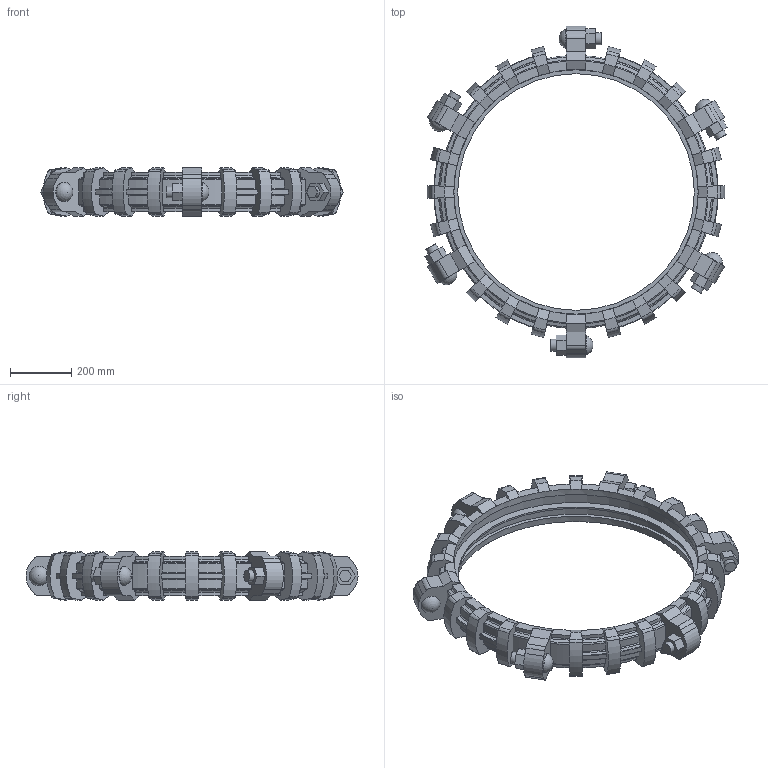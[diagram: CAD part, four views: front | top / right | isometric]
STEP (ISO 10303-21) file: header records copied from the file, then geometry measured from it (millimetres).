
FILE_DESCRIPTION(/* description */ ('VIC COUPLING STYLE 28','CAx-IF Rec.Pracs.---Representation and Presentation of Product Manufacturing Information (PMI)---4.0---2014-10-13'),/* implementation_level */ '2;1');
FILE_NAME(/* name */ 'C:\Users\kkamble\Desktop\KIRAN\2021\style 28\INVENTOR\Victaulic_Vic-Ring_Coupling Flexible_Style 28 (OGR)\Victaulic_Vic-Ring_Coupling Flexible_Style 28 (OGR)_30 (750).stp',/* time_stamp */ '2021-02-09T11:57:46+05:00',/* author */ ('jbrannon'),/* organization */ ('Victaulic'),/* preprocessor_version */ 'ST-DEVELOPER v17.2',/* originating_system */ 'Autodesk Inventor 2019',/* authorisation */ '');
FILE_SCHEMA (('AP242_MANAGED_MODEL_BASED_3D_ENGINEERING_MIM_LF { 1 0 10303 442 1 1 4 }'));
Length unit declared in the file: inch
Products named in the file (1): 28-30.0
Bounding box: 990.33 x 1087.12 x 157.48 mm (x, y, z)
Volume: 22709703.4 mm3; surface area: 1810948.2 mm2
Topology: 1 solids, 7 shells, 717 faces, 2023 edges, 1334 vertices
Faces by surface type: plane 244, torus 198, cylinder 149, cone 120, sphere 6
Full cylindrical faces by diameter (mm): 38.1 x12, 63.5 x6, 774.7 x1, 800.1 x2, 825.5 x2
Entity records: 25112 total; most frequent: CARTESIAN_POINT 4854, DIRECTION 4441, ORIENTED_EDGE 4034, EDGE_CURVE 2017, AXIS2_PLACEMENT_3D 1765, VERTEX_POINT 1334, CIRCLE 1034, LINE 911
